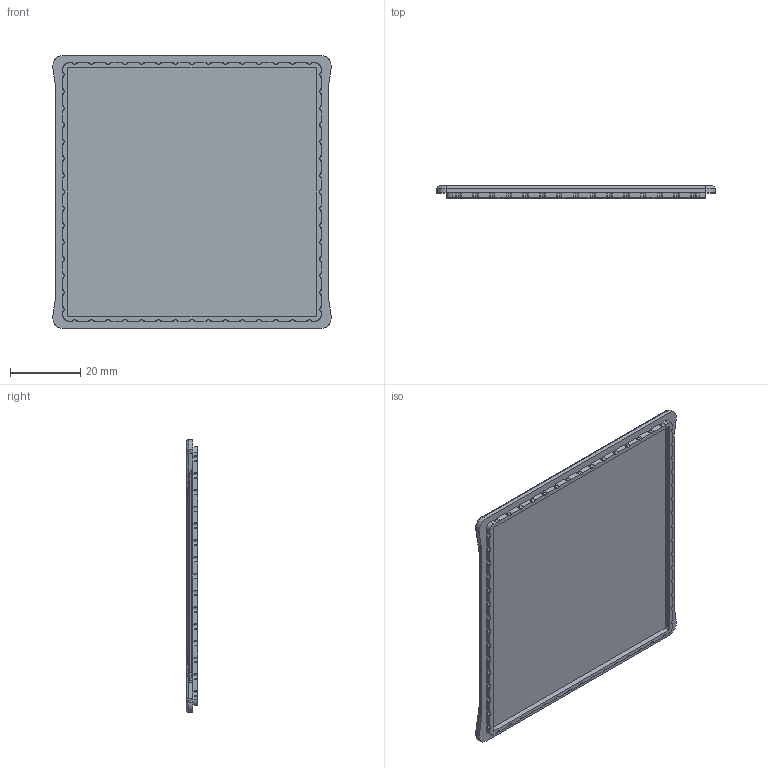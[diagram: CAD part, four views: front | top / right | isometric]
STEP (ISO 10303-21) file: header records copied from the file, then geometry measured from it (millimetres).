
FILE_DESCRIPTION (( 'STEP AP214' ), '1' );
FILE_NAME ('BX-33C.STEP', '2010-11-03T20:37:47', ( 'Designer2010' ), ( '' ), 'SwSTEP 2.0', 'SolidWorks 2010', '' );
FILE_SCHEMA (( 'AUTOMOTIVE_DESIGN' ));
Length unit declared in the file: inch
Products named in the file (1): BX-33C
Bounding box: 79.06 x 3.29 x 77.47 mm (x, y, z)
Volume: 11797.2 mm3; surface area: 13240 mm2
Topology: 1 solids, 1 shells, 368 faces, 1050 edges, 680 vertices
Faces by surface type: cone 222, plane 86, bspline 30, cylinder 26, torus 4
Entity records: 12597 total; most frequent: CARTESIAN_POINT 2796, DIRECTION 2156, ORIENTED_EDGE 2088, EDGE_CURVE 1044, AXIS2_PLACEMENT_3D 833, VERTEX_POINT 680, CIRCLE 494, LINE 490
